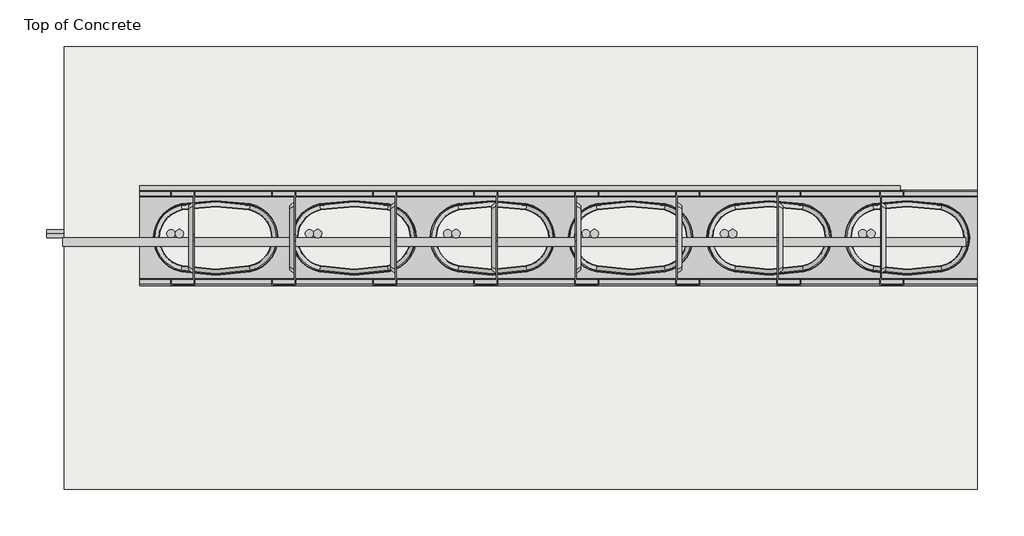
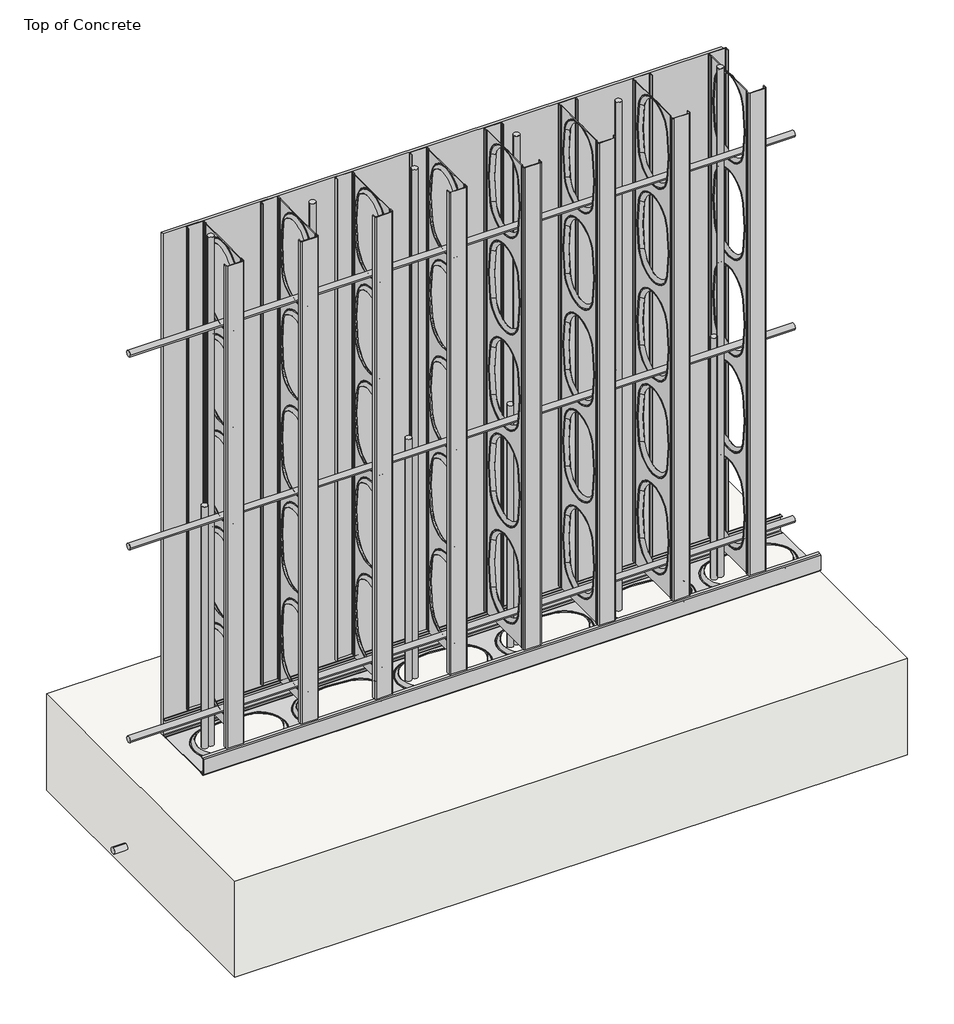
# One storey, incomplete: 25 proxies, 1 slab.
"""IFC4 building model written with IfcOpenShell, lengths in millimetres."""

from ifc_helpers import new_model, si_unit, frame, origin, origin_with_axes, place, context, project, spatial, polyline, outline, extrude, transform, mapped, element, save
from components import generic_models_f21598dd, generic_models_b8dcf46f, generic_models_b1a0e952, generic_models_67d9b5e8, generic_models_2680ca9b, generic_models_b1731cb6, onesteel_rnf_bar_onesteel_rnf_bar_horiz_eb721214, onesteel_rnf_bar_onesteel_rnf_bar_vert_0c4c5851, onesteel_rnf_bar_starter_onesteel_rnf_bar_vert_be2ae213

model = new_model("IFC4")

# Units and contexts
model_context = context("Model", 3, world=origin())
ifc_project = project(units=[si_unit("LENGTHUNIT", "METRE", prefix="MILLI")], contexts=[model_context])

# Site, building, storey
site = spatial("IfcSite", under=ifc_project)
building = spatial("IfcBuilding", under=site)
storey = spatial("IfcBuildingStorey", under=building, Name="Top of Concrete", Elevation=0.0)

# Proxies
placement = place(None, origin())
generic_models_shape = generic_models_f21598dd(model_context)
generic_models_2_shape = generic_models_b8dcf46f(model_context)
generic_models_3_shape = generic_models_b1a0e952(model_context)
element("IfcBuildingElementProxy", 1, Name="afs-LW-Track-150 : afs-LW-Track-150", ObjectType="afs-LW-Track-150 : afs-LW-Track-150", at=placement, inside=storey, context=model_context, shape_type="MappedRepresentation", body=[
    mapped(generic_models_shape, transform((-8912.6872823, 7598.2382122, 0.0), x_axis=(1.0, 0.0, 0.0), y_axis=(0.0, 1.0, 0.0), z_axis=(0.0, 0.0, 1.0))),
    mapped(generic_models_2_shape, transform((-8912.6872823, 7598.2382122, 0.0), x_axis=(1.0, 0.0, 0.0), y_axis=(0.0, 1.0, 0.0), z_axis=(0.0, 0.0, 1.0))),
    mapped(generic_models_3_shape, transform((-8912.6872823, 7598.2382122, 0.0), x_axis=(1.0, 0.0, 0.0), y_axis=(0.0, 1.0, 0.0), z_axis=(0.0, 0.0, 1.0))),
])
generic_models_4_shape = generic_models_67d9b5e8(model_context)
generic_models_5_shape = generic_models_2680ca9b(model_context)
generic_models_6_shape = generic_models_b1731cb6(model_context)
element("IfcBuildingElementProxy", 2, Name="afs-LW-Stud-150 : afs-LW-Stud-150", ObjectType="afs-LW-Stud-150 : afs-LW-Stud-150", at=placement, inside=storey, context=model_context, shape_type="MappedRepresentation", body=[
    mapped(generic_models_4_shape, transform((-8283.6872823, 7598.2382122, 0.0), x_axis=(0.0, -1.0, 0.0), y_axis=(1.0, 0.0, 0.0), z_axis=(0.0, 0.0, 1.0))),
    mapped(generic_models_5_shape, transform((-8283.6872823, 7598.2382122, 0.0), x_axis=(0.0, -1.0, 0.0), y_axis=(1.0, 0.0, 0.0), z_axis=(0.0, 0.0, 1.0))),
    mapped(generic_models_6_shape, transform((-8283.6872823, 7598.2382122, 0.0), x_axis=(0.0, -1.0, 0.0), y_axis=(1.0, 0.0, 0.0), z_axis=(0.0, 0.0, 1.0))),
])
element("IfcBuildingElementProxy", 3, Name="afs-LW-Stud-150 : afs-LW-Stud-150", ObjectType="afs-LW-Stud-150 : afs-LW-Stud-150", at=placement, inside=storey, context=model_context, shape_type="MappedRepresentation", body=[
    mapped(generic_models_4_shape, transform((-8832.6872823, 7598.2382122, 0.0), x_axis=(0.0, 1.0, 0.0), y_axis=(-1.0, 0.0, 0.0), z_axis=(0.0, 0.0, 1.0))),
    mapped(generic_models_5_shape, transform((-8832.6872823, 7598.2382122, 0.0), x_axis=(0.0, 1.0, 0.0), y_axis=(-1.0, 0.0, 0.0), z_axis=(0.0, 0.0, 1.0))),
    mapped(generic_models_6_shape, transform((-8832.6872823, 7598.2382122, 0.0), x_axis=(0.0, 1.0, 0.0), y_axis=(-1.0, 0.0, 0.0), z_axis=(0.0, 0.0, 1.0))),
])
element("IfcBuildingElementProxy", 4, Name="afs-LW-Stud-150 : afs-LW-Stud-150", ObjectType="afs-LW-Stud-150 : afs-LW-Stud-150", at=placement, inside=storey, context=model_context, shape_type="MappedRepresentation", body=[
    mapped(generic_models_4_shape, transform((-8686.6872823, 7598.2382122, 0.0), x_axis=(0.0, 1.0, 0.0), y_axis=(-1.0, 0.0, 0.0), z_axis=(0.0, 0.0, 1.0))),
    mapped(generic_models_5_shape, transform((-8686.6872823, 7598.2382122, 0.0), x_axis=(0.0, 1.0, 0.0), y_axis=(-1.0, 0.0, 0.0), z_axis=(0.0, 0.0, 1.0))),
    mapped(generic_models_6_shape, transform((-8686.6872823, 7598.2382122, 0.0), x_axis=(0.0, 1.0, 0.0), y_axis=(-1.0, 0.0, 0.0), z_axis=(0.0, 0.0, 1.0))),
])
element("IfcBuildingElementProxy", 5, Name="afs-LW-Stud-150 : afs-LW-Stud-150", ObjectType="afs-LW-Stud-150 : afs-LW-Stud-150", at=placement, inside=storey, context=model_context, shape_type="MappedRepresentation", body=[
    mapped(generic_models_4_shape, transform((-8540.6872823, 7598.2382122, 0.0), x_axis=(0.0, 1.0, 0.0), y_axis=(-1.0, 0.0, 0.0), z_axis=(0.0, 0.0, 1.0))),
    mapped(generic_models_5_shape, transform((-8540.6872823, 7598.2382122, 0.0), x_axis=(0.0, 1.0, 0.0), y_axis=(-1.0, 0.0, 0.0), z_axis=(0.0, 0.0, 1.0))),
    mapped(generic_models_6_shape, transform((-8540.6872823, 7598.2382122, 0.0), x_axis=(0.0, 1.0, 0.0), y_axis=(-1.0, 0.0, 0.0), z_axis=(0.0, 0.0, 1.0))),
])
element("IfcBuildingElementProxy", 6, Name="afs-LW-Stud-150 : afs-LW-Stud-150", ObjectType="afs-LW-Stud-150 : afs-LW-Stud-150", at=placement, inside=storey, context=model_context, shape_type="MappedRepresentation", body=[
    mapped(generic_models_4_shape, transform((-8394.6872823, 7598.2382122, 0.0), x_axis=(0.0, 1.0, 0.0), y_axis=(-1.0, 0.0, 0.0), z_axis=(0.0, 0.0, 1.0))),
    mapped(generic_models_5_shape, transform((-8394.6872823, 7598.2382122, 0.0), x_axis=(0.0, 1.0, 0.0), y_axis=(-1.0, 0.0, 0.0), z_axis=(0.0, 0.0, 1.0))),
    mapped(generic_models_6_shape, transform((-8394.6872823, 7598.2382122, 0.0), x_axis=(0.0, 1.0, 0.0), y_axis=(-1.0, 0.0, 0.0), z_axis=(0.0, 0.0, 1.0))),
])
element("IfcBuildingElementProxy", 7, Name="afs-LW-Stud-150 : afs-LW-Stud-150", ObjectType="afs-LW-Stud-150 : afs-LW-Stud-150", at=placement, inside=storey, context=model_context, shape_type="MappedRepresentation", body=[
    mapped(generic_models_4_shape, transform((-8137.6872823, 7598.2382122, 0.0), x_axis=(0.0, -1.0, 0.0), y_axis=(1.0, 0.0, 0.0), z_axis=(0.0, 0.0, 1.0))),
    mapped(generic_models_5_shape, transform((-8137.6872823, 7598.2382122, 0.0), x_axis=(0.0, -1.0, 0.0), y_axis=(1.0, 0.0, 0.0), z_axis=(0.0, 0.0, 1.0))),
    mapped(generic_models_6_shape, transform((-8137.6872823, 7598.2382122, 0.0), x_axis=(0.0, -1.0, 0.0), y_axis=(1.0, 0.0, 0.0), z_axis=(0.0, 0.0, 1.0))),
])
element("IfcBuildingElementProxy", 8, Name="afs-LW-Stud-150 : afs-LW-Stud-150", ObjectType="afs-LW-Stud-150 : afs-LW-Stud-150", at=placement, inside=storey, context=model_context, shape_type="MappedRepresentation", body=[
    mapped(generic_models_4_shape, transform((-7842.6872823, 7598.2382122, 0.0), x_axis=(0.0, -1.0, 0.0), y_axis=(1.0, 0.0, 0.0), z_axis=(0.0, 0.0, 1.0))),
    mapped(generic_models_5_shape, transform((-7842.6872823, 7598.2382122, 0.0), x_axis=(0.0, -1.0, 0.0), y_axis=(1.0, 0.0, 0.0), z_axis=(0.0, 0.0, 1.0))),
    mapped(generic_models_6_shape, transform((-7842.6872823, 7598.2382122, 0.0), x_axis=(0.0, -1.0, 0.0), y_axis=(1.0, 0.0, 0.0), z_axis=(0.0, 0.0, 1.0))),
])
element("IfcBuildingElementProxy", 9, Name="afs-LW-Stud-150 : afs-LW-Stud-150", ObjectType="afs-LW-Stud-150 : afs-LW-Stud-150", at=placement, inside=storey, context=model_context, shape_type="MappedRepresentation", body=[
    mapped(generic_models_4_shape, transform((-7991.6872823, 7598.2382122, 0.0), x_axis=(0.0, -1.0, 0.0), y_axis=(1.0, 0.0, 0.0), z_axis=(0.0, 0.0, 1.0))),
    mapped(generic_models_5_shape, transform((-7991.6872823, 7598.2382122, 0.0), x_axis=(0.0, -1.0, 0.0), y_axis=(1.0, 0.0, 0.0), z_axis=(0.0, 0.0, 1.0))),
    mapped(generic_models_6_shape, transform((-7991.6872823, 7598.2382122, 0.0), x_axis=(0.0, -1.0, 0.0), y_axis=(1.0, 0.0, 0.0), z_axis=(0.0, 0.0, 1.0))),
])
element("IfcBuildingElementProxy", 10, Name="CSR-Sheet : Cemintel 6mm", ObjectType="CSR-Sheet : Cemintel 6mm", at=placement, inside=storey, context=model_context, shape_type="SweptSolid", body=[
    extrude(outline(polyline([(-7812.6872823, 7673.2382122), (-7812.6872823, 7667.2382122), (-8912.6872823, 7667.2382122), (-8912.6872823, 7673.2382122), (-7812.6872823, 7673.2382122)])), origin_with_axes(), (0.0, 0.0, 1.0), 1040.0),
])
onesteel_rnf_bar_onesteel_rnf_bar_horiz_shape = onesteel_rnf_bar_onesteel_rnf_bar_horiz_eb721214(model_context)
element("IfcBuildingElementProxy", 11, Name="OneSteel-RNF-Bar : OneSteel-RNF-Bar-Horiz", ObjectType="OneSteel-RNF-Bar : OneSteel-RNF-Bar-Horiz", at=placement, inside=storey, context=model_context, shape_type="MappedRepresentation", body=[
    mapped(onesteel_rnf_bar_onesteel_rnf_bar_horiz_shape, transform((-9023.4055132, 7592.2382122, 75.8976103), x_axis=(1.0, 0.0, 0.0), y_axis=(0.0, 1.0, 0.0), z_axis=(0.0, 0.0, 1.0))),
])
element("IfcBuildingElementProxy", 12, Name="OneSteel-RNF-Bar : OneSteel-RNF-Bar-Horiz", ObjectType="OneSteel-RNF-Bar : OneSteel-RNF-Bar-Horiz", at=placement, inside=storey, context=model_context, shape_type="MappedRepresentation", body=[
    mapped(onesteel_rnf_bar_onesteel_rnf_bar_horiz_shape, transform((-9023.4055132, 7592.2382122, 475.8976103), x_axis=(1.0, 0.0, 0.0), y_axis=(0.0, 1.0, 0.0), z_axis=(0.0, 0.0, 1.0))),
])
element("IfcBuildingElementProxy", 13, Name="OneSteel-RNF-Bar : OneSteel-RNF-Bar-Horiz", ObjectType="OneSteel-RNF-Bar : OneSteel-RNF-Bar-Horiz", at=placement, inside=storey, context=model_context, shape_type="MappedRepresentation", body=[
    mapped(onesteel_rnf_bar_onesteel_rnf_bar_horiz_shape, transform((-9023.4055132, 7592.2382122, 875.8976103), x_axis=(1.0, 0.0, 0.0), y_axis=(0.0, 1.0, 0.0), z_axis=(0.0, 0.0, 1.0))),
])
onesteel_rnf_bar_onesteel_rnf_bar_vert_shape = onesteel_rnf_bar_onesteel_rnf_bar_vert_0c4c5851(model_context)
element("IfcBuildingElementProxy", 14, Name="OneSteel-RNF-Bar : OneSteel-RNF-Bar-Vert", ObjectType="OneSteel-RNF-Bar : OneSteel-RNF-Bar-Vert", at=placement, inside=storey, context=model_context, shape_type="MappedRepresentation", body=[
    mapped(onesteel_rnf_bar_onesteel_rnf_bar_vert_shape, transform((-8455.1872823, 7604.2382122, 0.0), x_axis=(0.0, 0.0, 1.0), y_axis=(1.0, 0.0, 0.0), z_axis=(0.0, 1.0, 0.0))),
])
element("IfcBuildingElementProxy", 15, Name="OneSteel-RNF-Bar : OneSteel-RNF-Bar-Vert", ObjectType="OneSteel-RNF-Bar : OneSteel-RNF-Bar-Vert", at=placement, inside=storey, context=model_context, shape_type="MappedRepresentation", body=[
    mapped(onesteel_rnf_bar_onesteel_rnf_bar_vert_shape, transform((-8655.1872823, 7604.2382122, 0.0), x_axis=(0.0, 0.0, 1.0), y_axis=(1.0, 0.0, 0.0), z_axis=(0.0, 1.0, 0.0))),
])
element("IfcBuildingElementProxy", 16, Name="OneSteel-RNF-Bar : OneSteel-RNF-Bar-Vert", ObjectType="OneSteel-RNF-Bar : OneSteel-RNF-Bar-Vert", at=placement, inside=storey, context=model_context, shape_type="MappedRepresentation", body=[
    mapped(onesteel_rnf_bar_onesteel_rnf_bar_vert_shape, transform((-8855.1872823, 7604.2382122, 0.0), x_axis=(0.0, 0.0, 1.0), y_axis=(1.0, 0.0, 0.0), z_axis=(0.0, 1.0, 0.0))),
])
element("IfcBuildingElementProxy", 17, Name="OneSteel-RNF-Bar : OneSteel-RNF-Bar-Vert", ObjectType="OneSteel-RNF-Bar : OneSteel-RNF-Bar-Vert", at=placement, inside=storey, context=model_context, shape_type="MappedRepresentation", body=[
    mapped(onesteel_rnf_bar_onesteel_rnf_bar_vert_shape, transform((-8255.1872823, 7604.2382122, 0.0), x_axis=(0.0, 0.0, 1.0), y_axis=(1.0, 0.0, 0.0), z_axis=(0.0, 1.0, 0.0))),
])
element("IfcBuildingElementProxy", 18, Name="OneSteel-RNF-Bar : OneSteel-RNF-Bar-Vert", ObjectType="OneSteel-RNF-Bar : OneSteel-RNF-Bar-Vert", at=placement, inside=storey, context=model_context, shape_type="MappedRepresentation", body=[
    mapped(onesteel_rnf_bar_onesteel_rnf_bar_vert_shape, transform((-8055.1872823, 7604.2382122, 0.0), x_axis=(0.0, 0.0, 1.0), y_axis=(1.0, 0.0, 0.0), z_axis=(0.0, 1.0, 0.0))),
])
element("IfcBuildingElementProxy", 19, Name="OneSteel-RNF-Bar : OneSteel-RNF-Bar-Vert", ObjectType="OneSteel-RNF-Bar : OneSteel-RNF-Bar-Vert", at=placement, inside=storey, context=model_context, shape_type="MappedRepresentation", body=[
    mapped(onesteel_rnf_bar_onesteel_rnf_bar_vert_shape, transform((-7855.1872823, 7604.2382122, 0.0), x_axis=(0.0, 0.0, 1.0), y_axis=(1.0, 0.0, 0.0), z_axis=(0.0, 1.0, 0.0))),
])
onesteel_rnf_bar_starter_onesteel_rnf_bar_vert_shape = onesteel_rnf_bar_starter_onesteel_rnf_bar_vert_be2ae213(model_context)
element("IfcBuildingElementProxy", 20, Name="OneSteel-RNF-Bar Starter : OneSteel-RNF-Bar-Vert", ObjectType="OneSteel-RNF-Bar Starter : OneSteel-RNF-Bar-Vert", at=placement, inside=storey, context=model_context, shape_type="MappedRepresentation", body=[
    mapped(onesteel_rnf_bar_starter_onesteel_rnf_bar_vert_shape, transform((-8867.1872823, 7604.2382122, 500.0), x_axis=(0.0, 0.0, -1.0), y_axis=(1.0, 0.0, 0.0), z_axis=(0.0, -1.0, 0.0))),
])
element("IfcBuildingElementProxy", 21, Name="OneSteel-RNF-Bar Starter : OneSteel-RNF-Bar-Vert", ObjectType="OneSteel-RNF-Bar Starter : OneSteel-RNF-Bar-Vert", at=placement, inside=storey, context=model_context, shape_type="MappedRepresentation", body=[
    mapped(onesteel_rnf_bar_starter_onesteel_rnf_bar_vert_shape, transform((-8667.1872823, 7604.2382122, 500.0), x_axis=(0.0, 0.0, -1.0), y_axis=(1.0, 0.0, 0.0), z_axis=(0.0, -1.0, 0.0))),
])
element("IfcBuildingElementProxy", 22, Name="OneSteel-RNF-Bar Starter : OneSteel-RNF-Bar-Vert", ObjectType="OneSteel-RNF-Bar Starter : OneSteel-RNF-Bar-Vert", at=placement, inside=storey, context=model_context, shape_type="MappedRepresentation", body=[
    mapped(onesteel_rnf_bar_starter_onesteel_rnf_bar_vert_shape, transform((-8467.1872823, 7604.2382122, 500.0), x_axis=(0.0, 0.0, -1.0), y_axis=(1.0, 0.0, 0.0), z_axis=(0.0, -1.0, 0.0))),
])
element("IfcBuildingElementProxy", 23, Name="OneSteel-RNF-Bar Starter : OneSteel-RNF-Bar-Vert", ObjectType="OneSteel-RNF-Bar Starter : OneSteel-RNF-Bar-Vert", at=placement, inside=storey, context=model_context, shape_type="MappedRepresentation", body=[
    mapped(onesteel_rnf_bar_starter_onesteel_rnf_bar_vert_shape, transform((-8267.1872823, 7604.2382122, 500.0), x_axis=(0.0, 0.0, -1.0), y_axis=(1.0, 0.0, 0.0), z_axis=(0.0, -1.0, 0.0))),
])
element("IfcBuildingElementProxy", 24, Name="OneSteel-RNF-Bar Starter : OneSteel-RNF-Bar-Vert", ObjectType="OneSteel-RNF-Bar Starter : OneSteel-RNF-Bar-Vert", at=placement, inside=storey, context=model_context, shape_type="MappedRepresentation", body=[
    mapped(onesteel_rnf_bar_starter_onesteel_rnf_bar_vert_shape, transform((-8067.1872823, 7604.2382122, 500.0), x_axis=(0.0, 0.0, -1.0), y_axis=(1.0, 0.0, 0.0), z_axis=(0.0, -1.0, 0.0))),
])
element("IfcBuildingElementProxy", 25, Name="OneSteel-RNF-Bar Starter : OneSteel-RNF-Bar-Vert", ObjectType="OneSteel-RNF-Bar Starter : OneSteel-RNF-Bar-Vert", at=placement, inside=storey, context=model_context, shape_type="MappedRepresentation", body=[
    mapped(onesteel_rnf_bar_starter_onesteel_rnf_bar_vert_shape, transform((-7867.1872823, 7604.2382122, 500.0), x_axis=(0.0, 0.0, -1.0), y_axis=(1.0, 0.0, 0.0), z_axis=(0.0, -1.0, 0.0))),
])

# Slab
element("IfcSlab", 26, ObjectType="afs 200mm", at=placement, inside=storey, context=model_context, shape_type="SweptSolid", body=[
    extrude(outline(polyline([(-7701.3620885, 7874.8744822), (-7701.3620885, 7234.8744822), (-9021.3620885, 7234.8744822), (-9021.3620885, 7874.8744822), (-7701.3620885, 7874.8744822)])), frame((0.0, 0.0, -202.0), z_axis=(0.0, 0.0, 1.0), x_axis=(1.0, 0.0, 0.0)), (0.0, 0.0, 1.0), 200.0),
])

save(model, "model.ifc")
